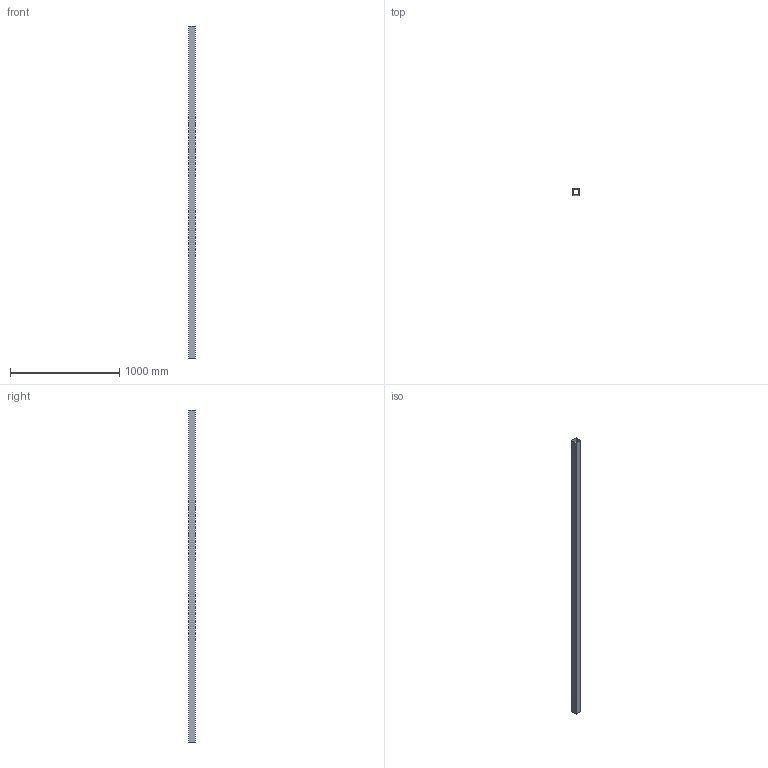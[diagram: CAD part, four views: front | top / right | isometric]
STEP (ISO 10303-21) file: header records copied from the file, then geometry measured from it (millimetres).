
FILE_DESCRIPTION(('Open CASCADE Model'),'2;1');
FILE_NAME('Open CASCADE Shape Model','2026-10-15T15:10:07',('Author'),( 'Open CASCADE'),'Open CASCADE STEP processor 8.0','Open CASCADE 8.0' ,'Unknown');
FILE_SCHEMA(('AUTOMOTIVE_DESIGN { 1 0 10303 214 1 1 1 1 }'));
Length unit declared in the file: millimetre
Products named in the file (1): SHS60x60x4_L3050000_P05_JUNTA_15 196
Bounding box: 60 x 60 x 3036 mm (x, y, z)
Volume: 2720256 mm3; surface area: 1361920 mm2
Topology: 1 solids, 1 shells, 10 faces, 24 edges, 16 vertices
Faces by surface type: plane 10
Entity records: 598 total; most frequent: CARTESIAN_POINT 115, DIRECTION 78, LINE 56, VECTOR 56, ORIENTED_EDGE 48, PCURVE 48, DEFINITIONAL_REPRESENTATION 48, EDGE_CURVE 24
